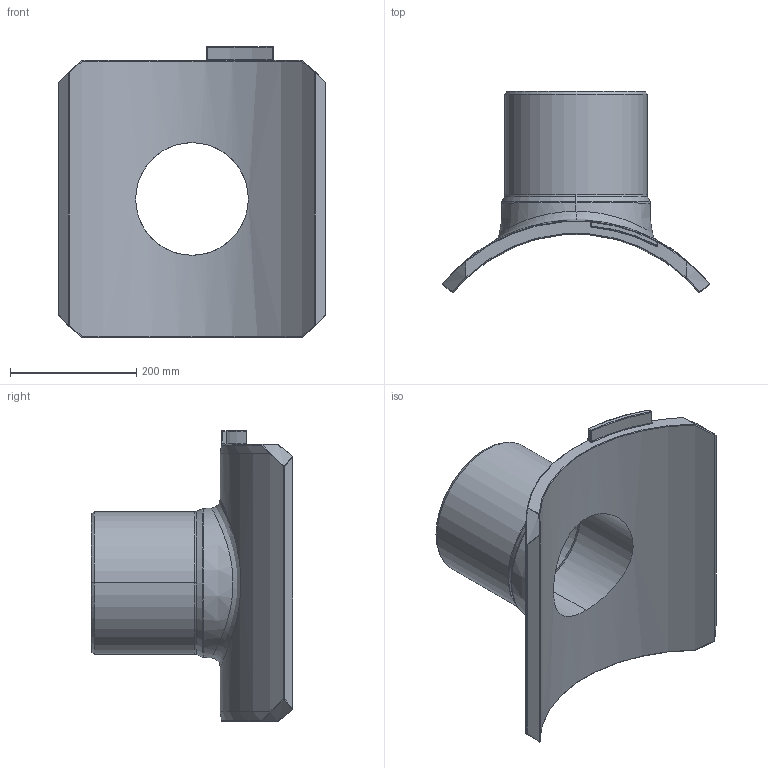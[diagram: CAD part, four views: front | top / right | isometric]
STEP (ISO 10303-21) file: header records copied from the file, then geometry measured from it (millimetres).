
FILE_DESCRIPTION((''),'2;1');
FILE_NAME('SA-UNI_D500_225_01','2024-10-29T13:41:41',('mikulicp'),(''),'CREO PARAMETRIC BY PTC INC, 2024133','CREO PARAMETRIC BY PTC INC, 2024133','');
FILE_SCHEMA(('AP242_MANAGED_MODEL_BASED_3D_ENGINEERING_MIM_LF { 1 0 10303 442 1 1 4 }'));
Length unit declared in the file: millimetre
Products named in the file (2): SA-UNI_D500_225_01; PE100
Bounding box: 422.58 x 318.63 x 460 mm (x, y, z)
Volume: 7088905.5 mm3; surface area: 672222 mm2
Topology: 1 solids, 1 shells, 235 faces, 569 edges, 352 vertices
Faces by surface type: bspline 74, plane 66, cylinder 49, sphere 20, torus 14, cone 12
Entity records: 14806 total; most frequent: CARTESIAN_POINT 6828, ORIENTED_EDGE 1138, DIRECTION 862, PRESENTATION_STYLE_ASSIGNMENT 581, STYLED_ITEM 570, CURVE_STYLE 569, EDGE_CURVE 569, VERTEX_POINT 352
